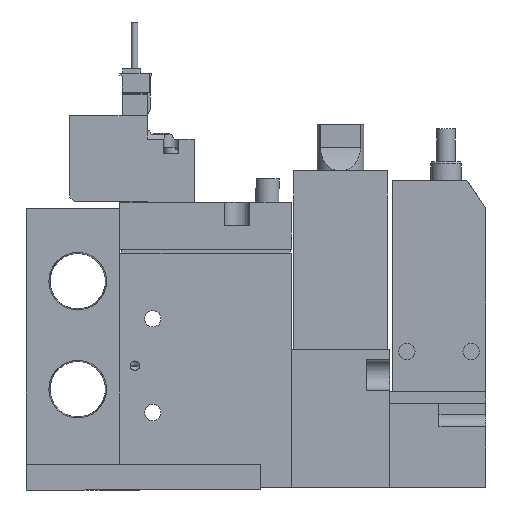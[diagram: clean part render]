
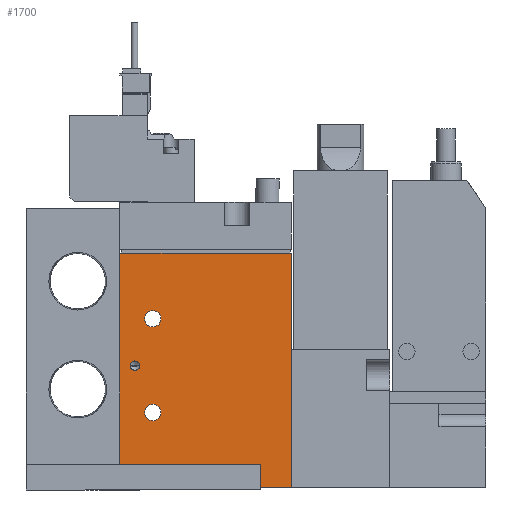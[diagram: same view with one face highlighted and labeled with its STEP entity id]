
A CAD part, left-side view. The second image highlights one B-rep face of the part: STEP entity #1700.
In plain terms, the highlighted planar face has unit normal (-1, 0, 0) as drawn and (1, 0, 0) by its records, which use the part's own axes.
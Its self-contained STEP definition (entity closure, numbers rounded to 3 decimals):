
#1700=ADVANCED_FACE('',(#2549,#2550,#2551,#2552),#2553,.F.);
#2549=FACE_BOUND('',#4371,.T.);
#2550=FACE_BOUND('',#4372,.T.);
#2551=FACE_BOUND('',#4373,.T.);
#2552=FACE_OUTER_BOUND('',#4374,.T.);
#2553=PLANE('',#4375);
#4371=EDGE_LOOP('',(#6356));
#4372=EDGE_LOOP('',(#6357));
#4373=EDGE_LOOP('',(#6358));
#4374=EDGE_LOOP('',(#6359,#6360,#6361,#6362));
#4375=AXIS2_PLACEMENT_3D('',#6363,#6364,#6365);
#6356=ORIENTED_EDGE('',*,*,#12259,.F.);
#6357=ORIENTED_EDGE('',*,*,#12258,.T.);
#6358=ORIENTED_EDGE('',*,*,#12255,.T.);
#6359=ORIENTED_EDGE('',*,*,#12252,.T.);
#6360=ORIENTED_EDGE('',*,*,#12260,.F.);
#6361=ORIENTED_EDGE('',*,*,#12247,.F.);
#6362=ORIENTED_EDGE('',*,*,#12261,.T.);
#6363=CARTESIAN_POINT('',(8.5,-19.444,50.0));
#6364=DIRECTION('',(-1.0,0.0,0.0));
#6365=DIRECTION('',(0.0,0.0,1.0));
#12247=EDGE_CURVE('',#14173,#14175,#14176,.T.);
#12252=EDGE_CURVE('',#14185,#14183,#14186,.T.);
#12255=EDGE_CURVE('',#14190,#14190,#14191,.T.);
#12258=EDGE_CURVE('',#14194,#14194,#14195,.T.);
#12259=EDGE_CURVE('',#14196,#14196,#14197,.T.);
#12260=EDGE_CURVE('',#14175,#14183,#14198,.T.);
#12261=EDGE_CURVE('',#14173,#14185,#14199,.T.);
#14173=VERTEX_POINT('',#17452);
#14175=VERTEX_POINT('',#17455);
#14176=LINE('',#17456,#17457);
#14183=VERTEX_POINT('',#17466);
#14185=VERTEX_POINT('',#17469);
#14186=LINE('',#17470,#17471);
#14190=VERTEX_POINT('',#17476);
#14191=CIRCLE('',#17477,1.75);
#14194=VERTEX_POINT('',#17480);
#14195=CIRCLE('',#17481,1.75);
#14196=VERTEX_POINT('',#17482);
#14197=CIRCLE('',#17483,1.0);
#14198=LINE('',#17484,#17485);
#14199=LINE('',#17486,#17487);
#17452=CARTESIAN_POINT('',(8.5,-19.444,50.0));
#17455=CARTESIAN_POINT('',(8.5,17.056,50.0));
#17456=CARTESIAN_POINT('',(8.5,-19.444,50.0));
#17457=VECTOR('',#22130,1.0);
#17466=CARTESIAN_POINT('',(8.5,17.056,0.0));
#17469=CARTESIAN_POINT('',(8.5,-19.444,0.0));
#17470=CARTESIAN_POINT('',(8.5,-19.444,0.0));
#17471=VECTOR('',#22137,1.0);
#17476=CARTESIAN_POINT('',(8.5,-10.694,16.0));
#17477=AXIS2_PLACEMENT_3D('',#22142,#22143,#22144);
#17480=CARTESIAN_POINT('',(8.5,-10.694,36.0));
#17481=AXIS2_PLACEMENT_3D('',#22148,#22149,#22150);
#17482=CARTESIAN_POINT('',(8.5,-17.244,26.0));
#17483=AXIS2_PLACEMENT_3D('',#22151,#22152,#22153);
#17484=CARTESIAN_POINT('',(8.5,17.056,50.0));
#17485=VECTOR('',#22154,1.0);
#17486=CARTESIAN_POINT('',(8.5,-19.444,50.0));
#17487=VECTOR('',#22155,1.0);
#22130=DIRECTION('',(0.0,1.0,0.0));
#22137=DIRECTION('',(0.0,1.0,0.0));
#22142=CARTESIAN_POINT('',(8.5,-12.444,16.0));
#22143=DIRECTION('',(-1.0,0.0,0.0));
#22144=DIRECTION('',(0.0,1.0,0.0));
#22148=CARTESIAN_POINT('',(8.5,-12.444,36.0));
#22149=DIRECTION('',(-1.0,0.0,0.0));
#22150=DIRECTION('',(0.0,1.0,0.0));
#22151=CARTESIAN_POINT('',(8.5,-16.244,26.0));
#22152=DIRECTION('',(1.0,0.,0.0));
#22153=DIRECTION('',(0.,-1.0,0.0));
#22154=DIRECTION('',(0.0,0.0,-1.0));
#22155=DIRECTION('',(0.0,0.0,-1.0));
